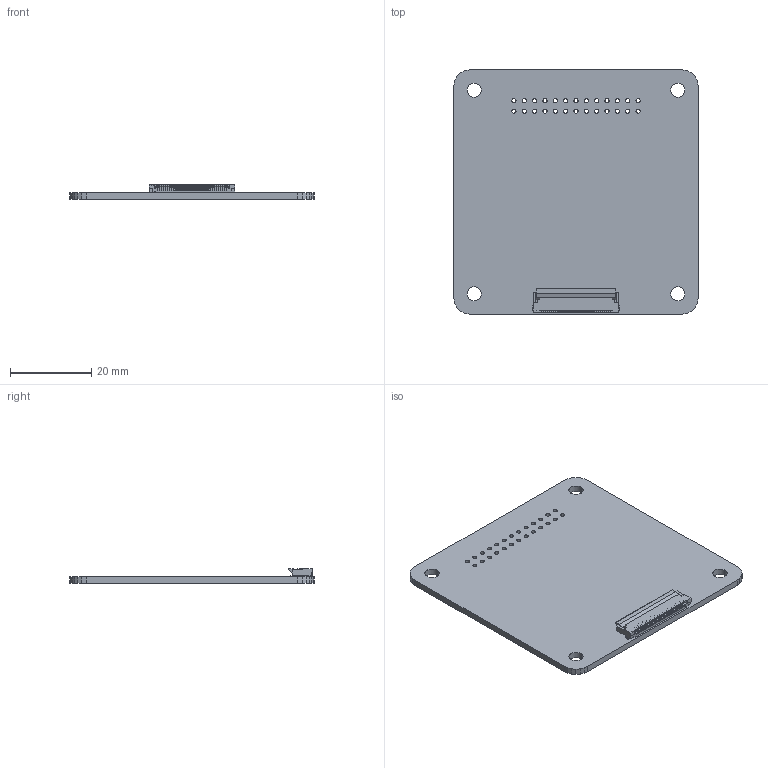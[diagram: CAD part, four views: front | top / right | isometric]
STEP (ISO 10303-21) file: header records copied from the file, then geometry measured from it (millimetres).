
FILE_DESCRIPTION (( 'STEP AP214' ), '1' );
FILE_NAME ('NHD-1.69-Breakout.STEP', '2019-05-13T18:34:46', ( '' ), ( '' ), 'SwSTEP 2.0', 'SolidWorks 2018', '' );
FILE_SCHEMA (( 'AUTOMOTIVE_DESIGN' ));
Length unit declared in the file: millimetre
Products named in the file (3): 1.69-Breakout; XF2M_3515_1A; NHD-1.69-Breakout
Assembly tree (2 placements, depth 2):
  NHD-1.69-Breakout
    1.69-Breakout
    XF2M_3515_1A
Bounding box: 60 x 60 x 3.6 mm (x, y, z)
Volume: 5818.9 mm3; surface area: 8298 mm2
Topology: 2 solids, 2 shells, 1433 faces, 4174 edges, 2782 vertices
Faces by surface type: plane 1372, cylinder 61
Entity records: 47674 total; most frequent: CARTESIAN_POINT 8394, ORIENTED_EDGE 8348, DIRECTION 7172, EDGE_CURVE 4174, LINE 4052, VECTOR 4052, VERTEX_POINT 2782, AXIS2_PLACEMENT_3D 1560
